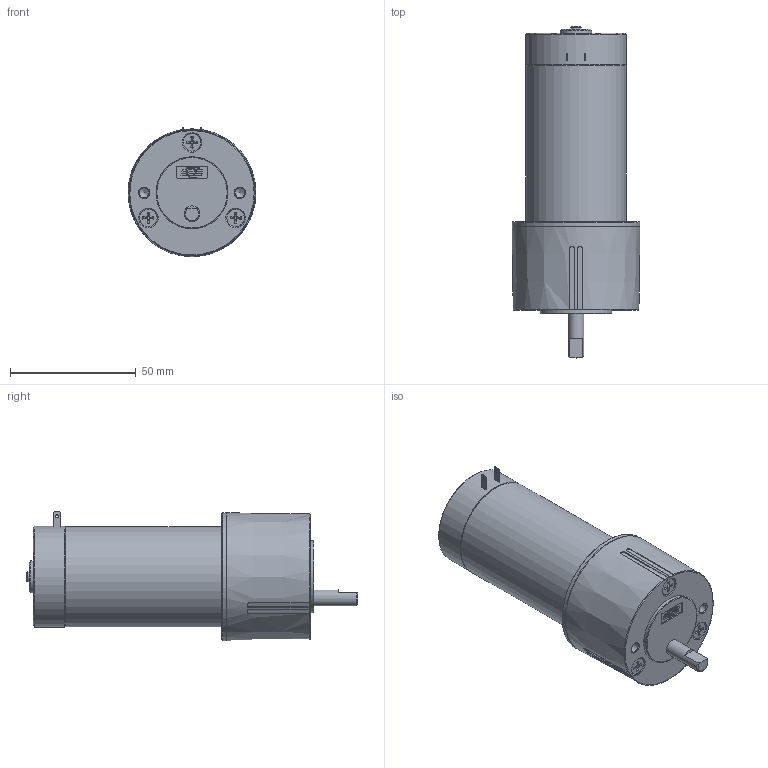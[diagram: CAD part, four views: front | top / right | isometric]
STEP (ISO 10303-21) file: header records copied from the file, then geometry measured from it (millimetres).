
FILE_DESCRIPTION((''),'2;1');
FILE_NAME('Z:\4_DC\새 폴더\RS4 SERIES\RS46ㅁㅁTㅁ.stp','2015-03-25T17:17:24',('kdhkdh'),(''),'Autodesk Inventor 2013','Autodesk Inventor 2013','');
FILE_SCHEMA(('AUTOMOTIVE_DESIGN { 1 0 10303 214 1 1 1 1 }'));
Length unit declared in the file: millimetre
Products named in the file (1): 부품2
Bounding box: 50.8 x 131.89 x 51.4 mm (x, y, z)
Volume: 165264.2 mm3; surface area: 20479.4 mm2
Topology: 1 solids, 3 shells, 367 faces, 967 edges, 633 vertices
Faces by surface type: plane 199, cylinder 101, cone 45, torus 22
Full cylindrical faces by diameter (mm): 1.2 x2, 2.8 x4, 3.5 x2, 3.7 x2, 3.962 x2, 4 x1, 6.34 x1, 6.9 x5, 7.8 x3, 12.7 x1, 28.575 x1, 40 x2, 50.8 x1
Entity records: 11662 total; most frequent: CARTESIAN_POINT 2925, ORIENTED_EDGE 1790, DIRECTION 1724, EDGE_CURVE 895, AXIS2_PLACEMENT_3D 633, VERTEX_POINT 614, EDGE_LOOP 458, VECTOR 458
